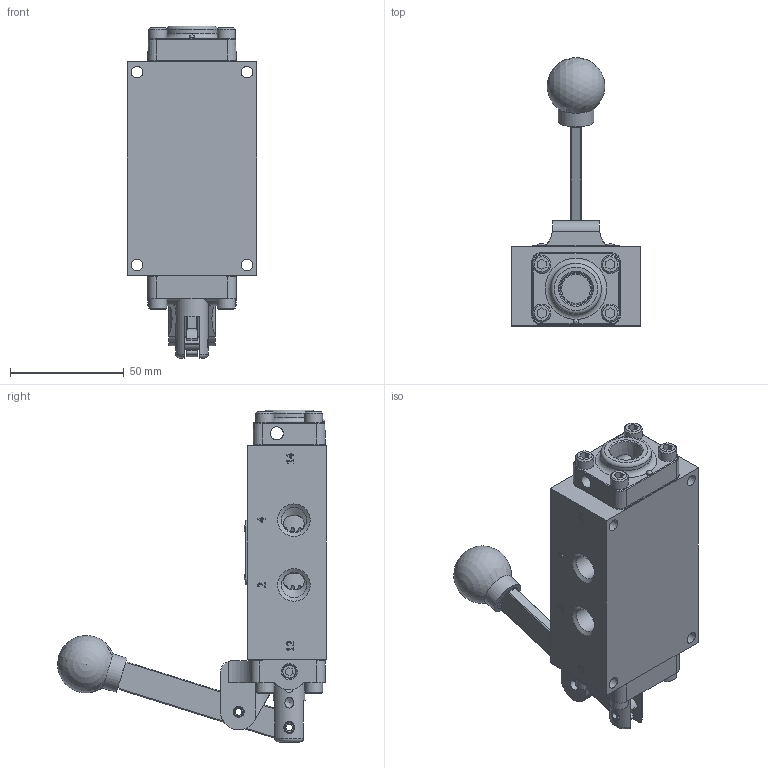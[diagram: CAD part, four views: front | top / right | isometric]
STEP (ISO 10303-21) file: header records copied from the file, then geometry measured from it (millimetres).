
FILE_DESCRIPTION(/* description */ (''),/* implementation_level */ '2;1');
FILE_NAME(/* name */ 'D:\Website Files\stp\Valves\Lever\Special\433V.stp',/* time_stamp */ '2016-05-07T03:17:35-04:00',/* author */ ('RMcKenna'),/* organization */ (''),/* preprocessor_version */ 'ST-DEVELOPER v15.6',/* originating_system */ 'Autodesk Inventor 2015',/* authorisation */ '');
FILE_SCHEMA (('AUTOMOTIVE_DESIGN { 1 0 10303 214 3 1 1 }'));
Length unit declared in the file: centimetre
Products named in the file (1): Part1
Bounding box: 57.15 x 118.33 x 146.21 mm (x, y, z)
Volume: 214193.2 mm3; surface area: 63999.7 mm2
Topology: 1 solids, 31 shells, 1229 faces, 3037 edges, 1947 vertices
Faces by surface type: plane 541, cone 271, cylinder 214, bspline 102, torus 95, sphere 6
Full cylindrical faces by diameter (mm): 2.07 x2, 2.261 x2, 2.778 x2, 3.175 x2, 3.683 x10, 3.912 x3, 4.75 x2, 4.763 x2, 4.826 x8, 4.978 x5, 5.055 x1, 5.156 x12, 5.791 x1, 7.798 x1, 7.938 x8, 9.922 x2, 10.973 x2, 11.113 x6, 11.303 x2, 12.7 x1, 14.275 x1, 15.596 x1, 15.748 x1, 18.618 x1, 18.745 x12, 19.177 x2, 22.327 x1, 23.825 x6
Entity records: 39371 total; most frequent: CARTESIAN_POINT 11105, ORIENTED_EDGE 5424, DIRECTION 5282, EDGE_CURVE 2711, AXIS2_PLACEMENT_3D 1974, VERTEX_POINT 1852, EDGE_LOOP 1604, LINE 1334
